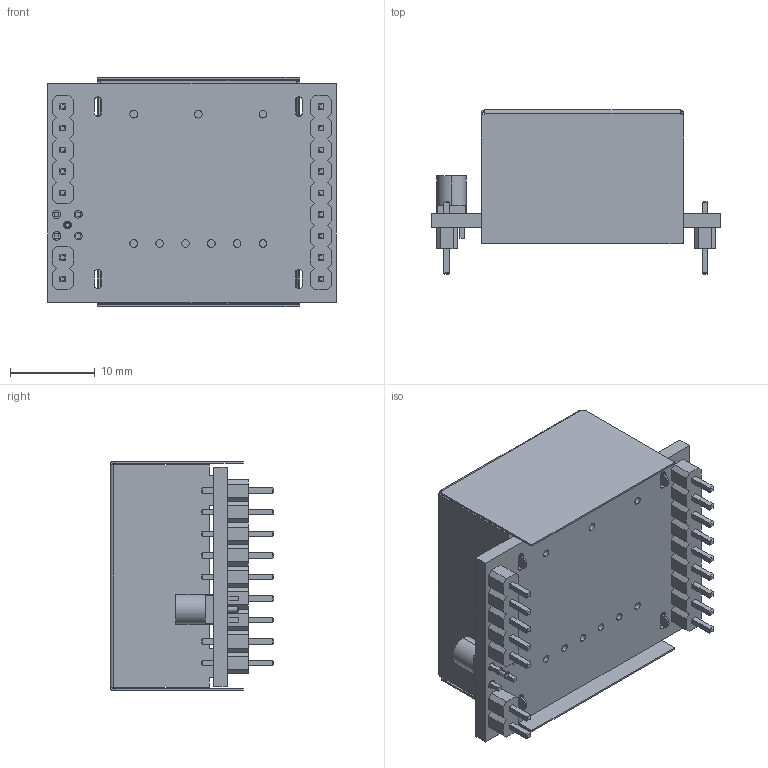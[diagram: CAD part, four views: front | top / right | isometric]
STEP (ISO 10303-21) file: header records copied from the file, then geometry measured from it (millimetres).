
FILE_DESCRIPTION( (''), '2;1');
FILE_NAME ('GF-8803_3D_DATA.stp','2019-09-19T13:06:48',(''),(''),'spGate 15.6.6','','');
FILE_SCHEMA (('AUTOMOTIVE_DESIGN'));
Length unit declared in the file: millimetre
Products named in the file (7): Assembly; GF-8803_3D_DATA-prt0; GF-8803_3D_DATA-prt1; GF-8803_3D_DATA-prt2; GF-8803_3D_DATA-prt3; GF-8803_3D_DATA-prt4; GF-8803_3D_DATA-prt5
Assembly tree (6 placements, depth 2):
  Assembly
    GF-8803_3D_DATA-prt0
    GF-8803_3D_DATA-prt1
    GF-8803_3D_DATA-prt2
    GF-8803_3D_DATA-prt3
    GF-8803_3D_DATA-prt4
    GF-8803_3D_DATA-prt5
Bounding box: 34 x 19.3 x 27 mm (x, y, z)
Volume: 2065.4 mm3; surface area: 6923.7 mm2
Topology: 6 solids, 6 shells, 606 faces, 1518 edges, 964 vertices
Faces by surface type: plane 506, cylinder 98, bspline 2
Entity records: 30348 total; most frequent: CARTESIAN_POINT 3192, ORIENTED_EDGE 3036, DIRECTION 2882, COLOUR_RGB 2130, PRESENTATION_STYLE_ASSIGNMENT 2130, STYLED_ITEM 2130, EDGE_CURVE 1518, DRAUGHTING_PRE_DEFINED_CURVE_FONT 1518
